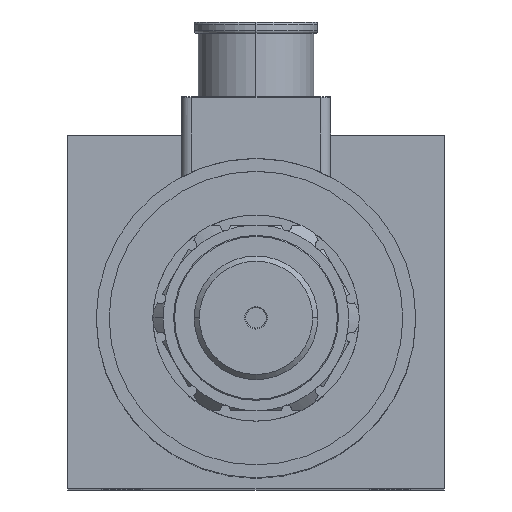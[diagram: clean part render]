
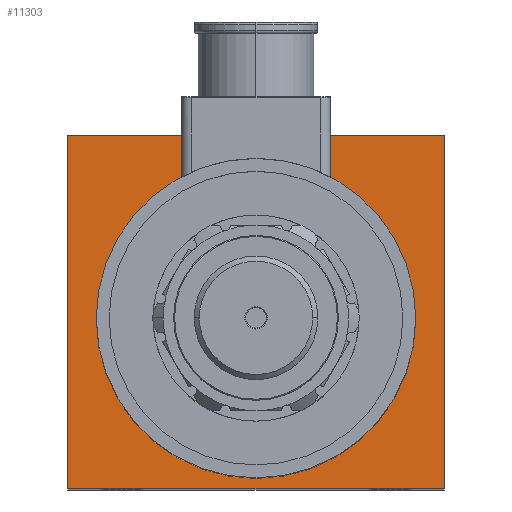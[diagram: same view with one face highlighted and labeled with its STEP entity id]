
A CAD part, top view. The second image highlights one B-rep face of the part: STEP entity #11303.
In plain terms, the highlighted planar face has unit normal (0, 0, 1).
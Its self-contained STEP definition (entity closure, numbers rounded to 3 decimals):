
#264 = DIRECTION ( 'NONE',  ( 1., 0., 0. ) ) ;
#384 = CIRCLE ( 'NONE', #14905, 31. ) ;
#661 = CARTESIAN_POINT ( 'NONE',  ( 36.5, -34.25, 130. ) ) ;
#895 = VERTEX_POINT ( 'NONE', #12997 ) ;
#1546 = DIRECTION ( 'NONE',  ( -1., 0., 0. ) ) ;
#1644 = CARTESIAN_POINT ( 'NONE',  ( -36.5, -34.25, 130. ) ) ;
#1927 = VERTEX_POINT ( 'NONE', #2170 ) ;
#2170 = CARTESIAN_POINT ( 'NONE',  ( 36.5, -34.25, 130. ) ) ;
#2387 = VERTEX_POINT ( 'NONE', #10754 ) ;
#3919 = DIRECTION ( 'NONE',  ( 0., 0., -1. ) ) ;
#4446 = FACE_BOUND ( 'NONE', #10787, .T. ) ;
#5015 = VERTEX_POINT ( 'NONE', #15023 ) ;
#5246 = ORIENTED_EDGE ( 'NONE', *, *, #17366, .T. ) ;
#5807 = VECTOR ( 'NONE', #7384, 1000. ) ;
#6809 = ORIENTED_EDGE ( 'NONE', *, *, #9218, .F. ) ;
#6904 = EDGE_CURVE ( 'NONE', #15157, #895, #8609, .T. ) ;
#7152 = ORIENTED_EDGE ( 'NONE', *, *, #12652, .T. ) ;
#7205 = ORIENTED_EDGE ( 'NONE', *, *, #8461, .T. ) ;
#7260 = CARTESIAN_POINT ( 'NONE',  ( -36.5, -34.25, 130. ) ) ;
#7384 = DIRECTION ( 'NONE',  ( 1., 0., 0. ) ) ;
#7715 = AXIS2_PLACEMENT_3D ( 'NONE', #14490, #3919, #1546 ) ;
#8431 = CARTESIAN_POINT ( 'NONE',  ( -36.5, 34.25, 130. ) ) ;
#8461 = EDGE_CURVE ( 'NONE', #895, #1927, #14591, .T. ) ;
#8609 = LINE ( 'NONE', #7260, #15561 ) ;
#8648 = AXIS2_PLACEMENT_3D ( 'NONE', #13440, #16162, #264 ) ;
#9218 = EDGE_CURVE ( 'NONE', #5015, #2387, #384, .T. ) ;
#9461 = LINE ( 'NONE', #661, #9835 ) ;
#9835 = VECTOR ( 'NONE', #15047, 1000. ) ;
#10181 = CIRCLE ( 'NONE', #8648, 31. ) ;
#10754 = CARTESIAN_POINT ( 'NONE',  ( -31., -1.25, 130. ) ) ;
#10787 = EDGE_LOOP ( 'NONE', ( #12848, #6809 ) ) ;
#10977 = CARTESIAN_POINT ( 'NONE',  ( -36.5, 34.25, 130. ) ) ;
#11219 = CARTESIAN_POINT ( 'NONE',  ( 0., -1.25, 130. ) ) ;
#11303 = ADVANCED_FACE ( 'NONE', ( #4446, #15359 ), #18214, .F. ) ;
#11768 = EDGE_CURVE ( 'NONE', #2387, #5015, #10181, .T. ) ;
#11945 = VECTOR ( 'NONE', #14219, 1000. ) ;
#12055 = CARTESIAN_POINT ( 'NONE',  ( 36.5, 34.25, 130. ) ) ;
#12649 = LINE ( 'NONE', #8431, #11945 ) ;
#12652 = EDGE_CURVE ( 'NONE', #14944, #15157, #12649, .T. ) ;
#12848 = ORIENTED_EDGE ( 'NONE', *, *, #11768, .F. ) ;
#12997 = CARTESIAN_POINT ( 'NONE',  ( -36.5, -34.25, 130. ) ) ;
#13440 = CARTESIAN_POINT ( 'NONE',  ( 0., -1.25, 130. ) ) ;
#13884 = DIRECTION ( 'NONE',  ( 1., 0., 0. ) ) ;
#14219 = DIRECTION ( 'NONE',  ( -1., 0., 0. ) ) ;
#14490 = CARTESIAN_POINT ( 'NONE',  ( 0., 0., 130. ) ) ;
#14591 = LINE ( 'NONE', #1644, #5807 ) ;
#14905 = AXIS2_PLACEMENT_3D ( 'NONE', #11219, #15669, #13884 ) ;
#14944 = VERTEX_POINT ( 'NONE', #12055 ) ;
#15023 = CARTESIAN_POINT ( 'NONE',  ( 31., -1.25, 130. ) ) ;
#15047 = DIRECTION ( 'NONE',  ( 0., 1., 0. ) ) ;
#15157 = VERTEX_POINT ( 'NONE', #10977 ) ;
#15359 = FACE_OUTER_BOUND ( 'NONE', #17139, .T. ) ;
#15561 = VECTOR ( 'NONE', #15623, 1000. ) ;
#15623 = DIRECTION ( 'NONE',  ( 0., -1., 0. ) ) ;
#15669 = DIRECTION ( 'NONE',  ( 0., 0., 1. ) ) ;
#15991 = ORIENTED_EDGE ( 'NONE', *, *, #6904, .T. ) ;
#16162 = DIRECTION ( 'NONE',  ( 0., 0., 1. ) ) ;
#17139 = EDGE_LOOP ( 'NONE', ( #5246, #7152, #15991, #7205 ) ) ;
#17366 = EDGE_CURVE ( 'NONE', #1927, #14944, #9461, .T. ) ;
#18214 = PLANE ( 'NONE',  #7715 ) ;
